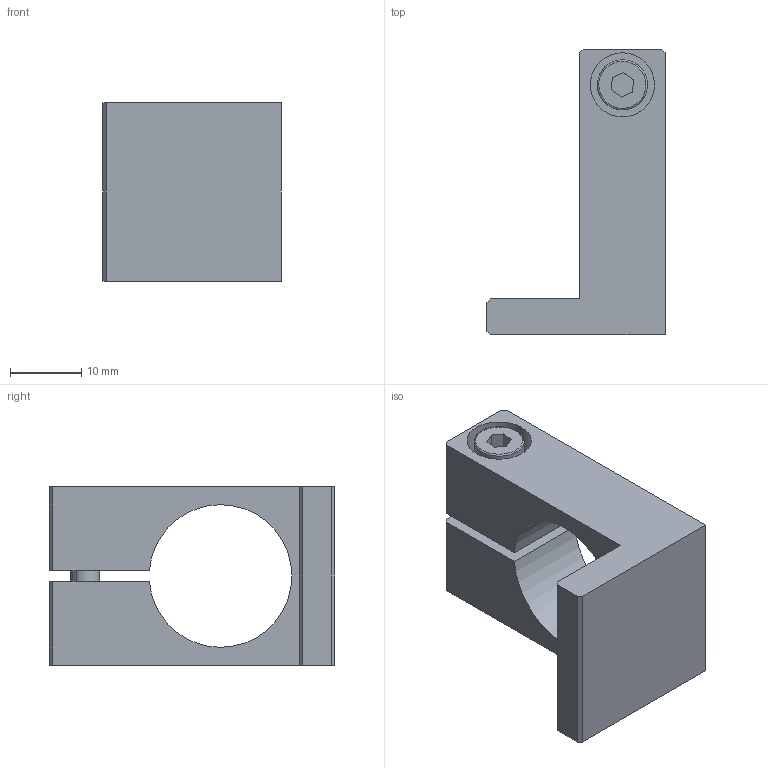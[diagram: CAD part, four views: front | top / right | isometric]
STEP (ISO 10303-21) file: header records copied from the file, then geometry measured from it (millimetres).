
FILE_DESCRIPTION (( 'STEP AP214' ), '1' );
FILE_NAME ('GP2-20.STEP', '2019-11-13T03:15:39', ( '微软用户' ), ( '微软中国' ), 'SwSTEP 2.0', 'SolidWorks 2016', '' );
FILE_SCHEMA (( 'AUTOMOTIVE_DESIGN' ));
Length unit declared in the file: millimetre
Products named in the file (1): GP2-20
Bounding box: 25 x 40 x 25 mm (x, y, z)
Volume: 9342.7 mm3; surface area: 5490.7 mm2
Topology: 3 solids, 3 shells, 241 faces, 690 edges, 456 vertices
Faces by surface type: plane 220, cylinder 17, cone 2, bspline 2
Entity records: 10728 total; most frequent: CARTESIAN_POINT 1512, DIRECTION 1386, ORIENTED_EDGE 1380, EDGE_CURVE 690, VECTOR 466, LINE 466, AXIS2_PLACEMENT_3D 460, VERTEX_POINT 456
